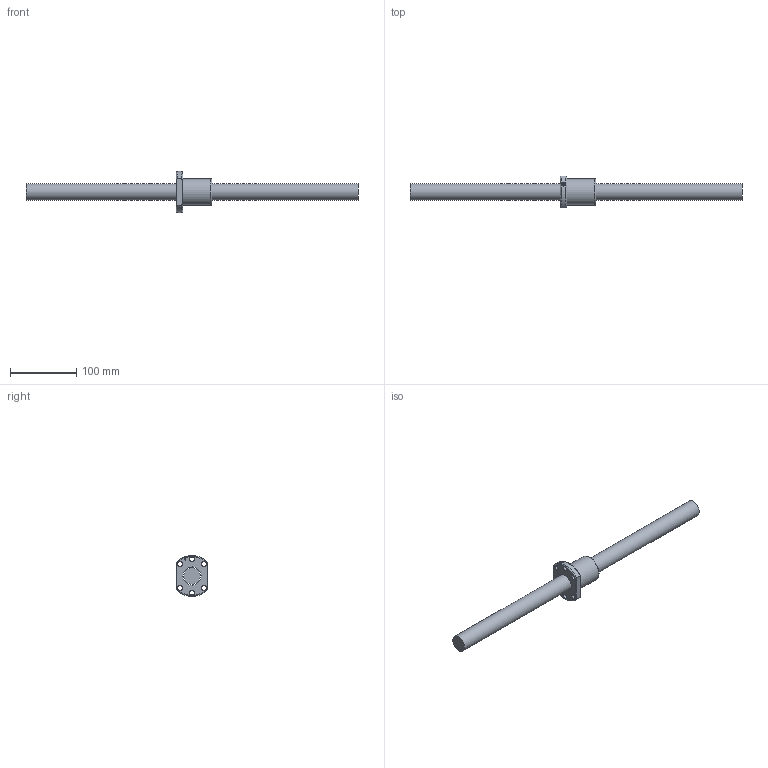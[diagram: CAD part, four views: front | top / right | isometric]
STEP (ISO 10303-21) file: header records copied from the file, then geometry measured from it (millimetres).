
FILE_DESCRIPTION (( 'STEP AP203' ), '1' );
FILE_NAME ('SFU02506D-4.step', '2024-05-14T07:04:45', ( '' ), ( '' ), 'SwSTEP 2.0', 'SolidWorks 2022', '' );
FILE_SCHEMA (( 'CONFIG_CONTROL_DESIGN' ));
Length unit declared in the file: millimetre
Products named in the file (1): SFU02506D-4
Bounding box: 500 x 48 x 61.8 mm (x, y, z)
Volume: 293322.7 mm3; surface area: 57171.1 mm2
Topology: 2 solids, 2 shells, 54 faces, 132 edges, 83 vertices
Faces by surface type: cylinder 19, cone 13, plane 12, bspline 5, torus 5
Full cylindrical faces by diameter (mm): 4 x1, 5 x6, 6.6 x6, 25 x1, 27.14 x1, 40 x1
Entity records: 3149 total; most frequent: CARTESIAN_POINT 2113, DIRECTION 186, ORIENTED_EDGE 166, EDGE_LOOP 90, AXIS2_PLACEMENT_3D 85, EDGE_CURVE 83, VERTEX_POINT 67, FACE_OUTER_BOUND 60
